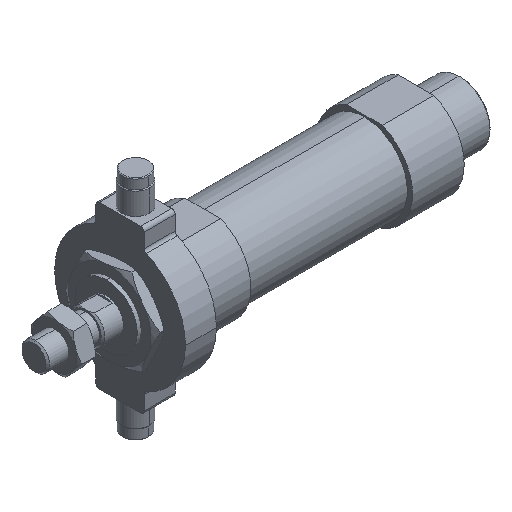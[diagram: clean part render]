
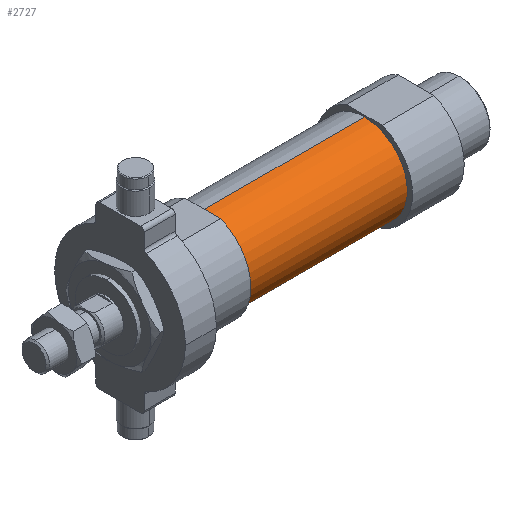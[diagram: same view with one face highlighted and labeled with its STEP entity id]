
A CAD part, isometric view. The second image highlights one B-rep face of the part: STEP entity #2727.
In plain terms, the highlighted cylindrical face has radius 12.5 mm (diameter 25 mm), a partial arc.
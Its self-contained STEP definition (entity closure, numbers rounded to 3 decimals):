
#506 = DIRECTION ( 'NONE',  ( 0., 0., 1. ) ) ;
#537 = ORIENTED_EDGE ( 'NONE', *, *, #2258, .T. ) ;
#588 = DIRECTION ( 'NONE',  ( -1., 0., 0. ) ) ;
#731 = CARTESIAN_POINT ( 'NONE',  ( 49., 0., 12.5 ) ) ;
#779 = DIRECTION ( 'NONE',  ( -1., 0., 0. ) ) ;
#813 = CARTESIAN_POINT ( 'NONE',  ( -6.469, 0., 12.5 ) ) ;
#874 = EDGE_CURVE ( 'NONE', #2847, #4063, #2924, .T. ) ;
#937 = VERTEX_POINT ( 'NONE', #731 ) ;
#1028 = VECTOR ( 'NONE', #2118, 1000. ) ;
#1401 = CARTESIAN_POINT ( 'NONE',  ( -6.469, 0., 0. ) ) ;
#1474 = CIRCLE ( 'NONE', #1933, 12.5 ) ;
#1522 = CARTESIAN_POINT ( 'NONE',  ( 96., 0., 0. ) ) ;
#1550 = DIRECTION ( 'NONE',  ( 0., 0., 1. ) ) ;
#1609 = AXIS2_PLACEMENT_3D ( 'NONE', #1522, #779, #3929 ) ;
#1808 = EDGE_CURVE ( 'NONE', #4063, #937, #1474, .T. ) ;
#1933 = AXIS2_PLACEMENT_3D ( 'NONE', #3498, #3573, #506 ) ;
#1943 = CARTESIAN_POINT ( 'NONE',  ( 96., 0., 12.5 ) ) ;
#2054 = DIRECTION ( 'NONE',  ( -1., 0., 0. ) ) ;
#2118 = DIRECTION ( 'NONE',  ( -1., 0., 0. ) ) ;
#2258 = EDGE_CURVE ( 'NONE', #2847, #2323, #3372, .T. ) ;
#2323 = VERTEX_POINT ( 'NONE', #1943 ) ;
#2449 = AXIS2_PLACEMENT_3D ( 'NONE', #1401, #588, #1550 ) ;
#2701 = EDGE_CURVE ( 'NONE', #2323, #937, #2791, .T. ) ;
#2727 = ADVANCED_FACE ( 'NONE', ( #3722 ), #3017, .T. ) ;
#2791 = LINE ( 'NONE', #813, #3175 ) ;
#2847 = VERTEX_POINT ( 'NONE', #3378 ) ;
#2924 = LINE ( 'NONE', #4458, #1028 ) ;
#3017 = CYLINDRICAL_SURFACE ( 'NONE', #2449, 12.5 ) ;
#3175 = VECTOR ( 'NONE', #2054, 1000. ) ;
#3372 = CIRCLE ( 'NONE', #1609, 12.5 ) ;
#3378 = CARTESIAN_POINT ( 'NONE',  ( 96., 0., -12.5 ) ) ;
#3396 = ORIENTED_EDGE ( 'NONE', *, *, #1808, .F. ) ;
#3443 = EDGE_LOOP ( 'NONE', ( #3643, #537, #3673, #3396 ) ) ;
#3498 = CARTESIAN_POINT ( 'NONE',  ( 49., 0., 0. ) ) ;
#3573 = DIRECTION ( 'NONE',  ( -1., 0., 0. ) ) ;
#3643 = ORIENTED_EDGE ( 'NONE', *, *, #874, .F. ) ;
#3673 = ORIENTED_EDGE ( 'NONE', *, *, #2701, .T. ) ;
#3722 = FACE_OUTER_BOUND ( 'NONE', #3443, .T. ) ;
#3929 = DIRECTION ( 'NONE',  ( 0., 0., 1. ) ) ;
#4063 = VERTEX_POINT ( 'NONE', #4306 ) ;
#4306 = CARTESIAN_POINT ( 'NONE',  ( 49., 0., -12.5 ) ) ;
#4458 = CARTESIAN_POINT ( 'NONE',  ( -6.469, 0., -12.5 ) ) ;
